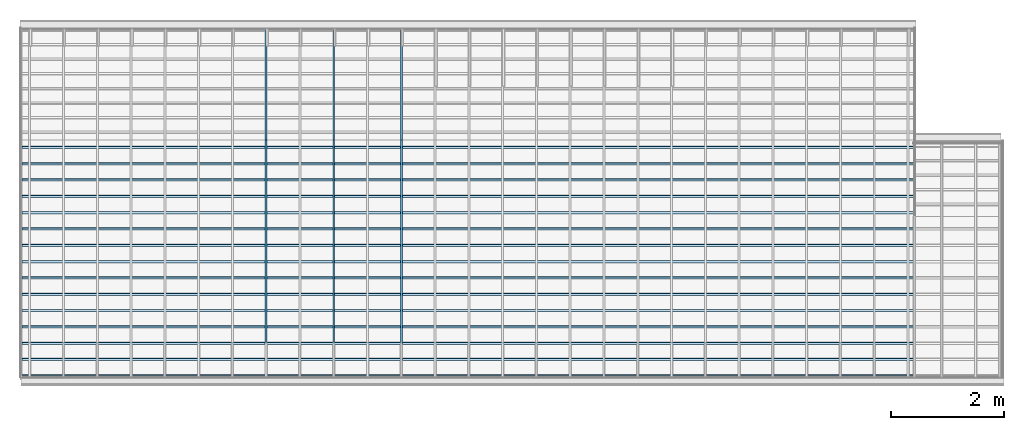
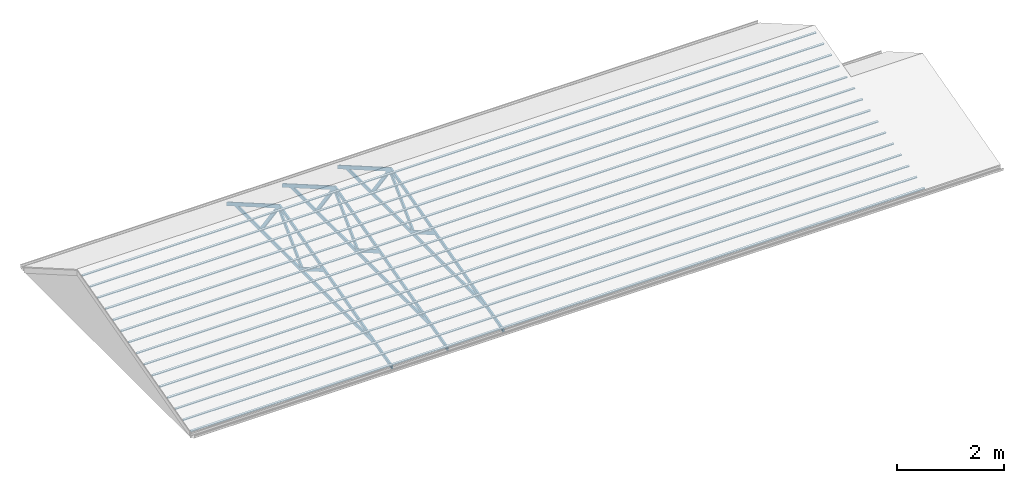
# One storey, part 4 of 12: 4 slabs.
"""IFC2X3 building model written with IfcOpenShell, lengths in millimetres."""

from ifc_helpers import new_model, entity, si_unit, converted_unit, money_unit, direction, frame, origin_with_axes, place, context, subcontext, project, spatial, faceted_brep, source, transform, mapped, material, type_object, element, save


model = new_model("IFC2X3")

# Units and contexts
model_context = context("Model", 3, precision=1e-05, world=origin_with_axes(), true_north=direction((0.0, 1.0)))
body_context = subcontext(model_context, "Body", "Model", "MODEL_VIEW")
ifc_project = project(units=[si_unit("LENGTHUNIT", "METRE", prefix="MILLI"), si_unit("AREAUNIT", "SQUARE_METRE"), si_unit("VOLUMEUNIT", "CUBIC_METRE"), converted_unit("PLANEANGLEUNIT", "DEGREE", entity("IfcPlaneAngleMeasure", 0.0174532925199), si_unit("PLANEANGLEUNIT", "RADIAN"), dimensions=[0, 0, 0, 0, 0, 0, 0]), si_unit("SOLIDANGLEUNIT", "STERADIAN"), money_unit("AUD"), si_unit("TIMEUNIT", "SECOND"), si_unit("MASSUNIT", "GRAM"), si_unit("THERMODYNAMICTEMPERATUREUNIT", "DEGREE_CELSIUS"), si_unit("LUMINOUSINTENSITYUNIT", "LUMEN")], contexts=[model_context])

# Site, building, storey
site_placement = place(None, origin_with_axes())
site = spatial("IfcSite", under=ifc_project, at=site_placement, Name="Lot 1. East Hills", CompositionType="ELEMENT")
building_placement = place(site_placement, origin_with_axes())
building = spatial("IfcBuilding", under=site, at=building_placement, Name="Proposed Units 7 & 8", CompositionType="ELEMENT")
storey_placement = place(building_placement, frame((0.0, 0.0, 8395.0), z_axis=(0.0, 0.0, 1.0), x_axis=(1.0, 0.0, 0.0)))
storey = spatial("IfcBuildingStorey", under=building, at=storey_placement, Name="Roof", CompositionType="ELEMENT", Elevation=8395.0)

# Slabs
ifc_material = material(Name="50 %")
slab_type_1 = type_object("IfcSlabType", Name="Roof Trust large", PredefinedType="NOTDEFINED")
slab_1_placement = place(storey_placement, frame((6755.0, -3.11548540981, 0.0), z_axis=(0.0, 0.0, 1.0), x_axis=(-1.0, 0.0, 0.0)))
element("IfcSlab", 1, at=slab_1_placement, inside=storey, type_object=slab_type_1, material=ifc_material, Name="TRUST_16 - Roof Trust large - object -", PredefinedType="ROOF", context=body_context, shape_type="Brep", body=[
    faceted_brep([(0.0, 600.020035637, -160.773638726), (0.0, 600.020035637, -160.673638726), (35.0, 600.020035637, -160.673638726), (35.0, 600.020035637, -160.773638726), (0.0, 599.923443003, -160.747757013), (0.0, 0.0966282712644, -0.0259204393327), (0.0, 3.56373446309e-05, -3.87262417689e-05), (0.0, -0.0999643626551, -3.87262417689e-05), (0.0, -5264.89996436, -3.87262399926e-05), (0.0, -5264.99996436, -3.87262399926e-05), (0.0, -5265.08656691, -0.050038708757), (0.0, -5564.91336181, -173.155038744), (0.0, -5564.99996436, -173.205038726), (0.0, -5564.99996436, -173.105038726), (0.0, -5564.99996436, -86.7025387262), (0.0, -5564.99996436, -86.6025387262), (0.0, -5564.91336181, -86.552538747), (0.0, -3606.74656692, 1043.99496129), (0.0, -3606.65996436, 1044.04496127), (0.0, -3606.56337176, 1044.01907945), (0.0, 599.923443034, -83.102056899), (0.0, 600.020035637, -83.1279387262), (0.0, 600.020035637, -83.2279387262), (0.0, -279.899964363, 74.9999612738), (0.0, -279.996556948, 75.0258431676), (0.0, -1937.88337178, 519.25507938), (0.0, -1937.97996436, 519.280961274), (0.0, -1938.06635104, 519.230589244), (0.0, -2699.82357768, 75.0503333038), (0.0, -2699.90996436, 74.9999612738), (0.0, -2699.80996436, 74.9999612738), (0.0, -279.999964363, 74.9999612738), (0.0, -2039.93996436, 546.601961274), (0.0, -2040.03655692, 546.627843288), (0.0, -3595.96337181, 963.539079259), (0.0, -3596.05996436, 963.564961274), (0.0, -3595.98895391, 963.494551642), (0.0, -2755.09097481, 129.711370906), (0.0, -2755.01996436, 129.640961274), (0.0, -2754.93357759, 129.691333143), (0.0, -2040.02635114, 546.551589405), (0.0, -2806.42996436, 74.9999612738), (0.0, -2806.50097476, 75.0703709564), (0.0, -3640.32895396, 901.844551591), (0.0, -3640.39996436, 901.914961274), (0.0, -3640.45835547, 901.833779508), (0.0, -4235.11157326, 75.0811430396), (0.0, -4235.16996436, 74.9999612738), (0.0, -4235.06996436, 74.9999612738), (0.0, -2806.52996436, 74.9999612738), (0.0, -3751.98996436, 873.534961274), (0.0, -3752.07656695, 873.48496135), (0.0, -5135.00936178, 75.0499611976), (0.0, -5135.09596436, 74.9999612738), (0.0, -5134.99596436, 74.9999612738), (0.0, -4326.44996436, 74.9999612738), (0.0, -4326.34996436, 74.9999612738), (0.0, -4326.29157308, 75.0811429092), (0.0, -3752.04835565, 873.453779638), (35.0, 600.020035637, -83.2279387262), (35.0, 600.020035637, -83.1279387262), (35.0, 599.923443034, -83.102056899), (35.0, -3606.56337176, 1044.01907945), (35.0, -3606.65996436, 1044.04496127), (35.0, -3606.74656692, 1043.99496129), (35.0, -5564.91336181, -86.552538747), (35.0, -5564.99996436, -86.6025387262), (35.0, -5564.99996436, -86.7025387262), (35.0, -5564.99996436, -173.105038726), (35.0, -5564.99996436, -173.205038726), (35.0, -5564.91336181, -173.155038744), (35.0, -5265.08656691, -0.050038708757), (35.0, -5264.99996436, -3.87262399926e-05), (35.0, -5264.89996436, -3.87262399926e-05), (35.0, -0.0999643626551, -3.87262417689e-05), (35.0, 3.56373446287e-05, -3.87262417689e-05), (35.0, 0.0966282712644, -0.0259204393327), (35.0, 599.923443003, -160.747757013), (35.0, -279.899964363, 74.9999612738), (35.0, -279.999964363, 74.9999612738), (35.0, -2699.80996436, 74.9999612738), (35.0, -2699.90996436, 74.9999612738), (35.0, -2699.82357768, 75.0503333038), (35.0, -1938.06635104, 519.230589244), (35.0, -1937.97996436, 519.280961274), (35.0, -1937.88337178, 519.25507938), (35.0, -279.996556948, 75.0258431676), (35.0, -2039.93996436, 546.601961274), (35.0, -2040.02635114, 546.551589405), (35.0, -2754.93357759, 129.691333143), (35.0, -2755.01996436, 129.640961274), (35.0, -2755.09097481, 129.711370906), (35.0, -3595.98895391, 963.494551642), (35.0, -3596.05996436, 963.564961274), (35.0, -3595.96337181, 963.539079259), (35.0, -2040.03655692, 546.627843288), (35.0, -2806.42996436, 74.9999612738), (35.0, -2806.52996436, 74.9999612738), (35.0, -4235.06996436, 74.9999612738), (35.0, -4235.16996436, 74.9999612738), (35.0, -4235.11157326, 75.0811430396), (35.0, -3640.45835547, 901.833779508), (35.0, -3640.39996436, 901.914961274), (35.0, -3640.32895396, 901.844551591), (35.0, -2806.50097476, 75.0703709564), (35.0, -3751.98996436, 873.534961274), (35.0, -3752.04835565, 873.453779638), (35.0, -4326.29157308, 75.0811429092), (35.0, -4326.34996436, 74.9999612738), (35.0, -4326.44996436, 74.9999612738), (35.0, -5134.99596436, 74.9999612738), (35.0, -5135.09596436, 74.9999612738), (35.0, -5135.00936178, 75.0499611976), (35.0, -3752.07656695, 873.48496135)], [[[0, 1, 2, 3]], [[0, 4, 5, 6, 7, 8, 9, 10, 11, 12, 13, 14, 15, 16, 17, 18, 19, 20, 21, 22, 1], [23, 24, 25, 26, 27, 28, 29, 30, 31], [32, 33, 34, 35, 36, 37, 38, 39, 40], [41, 42, 43, 44, 45, 46, 47, 48, 49], [50, 51, 52, 53, 54, 55, 56, 57, 58]], [[1, 22, 59, 2]], [[3, 2, 59, 60, 61, 62, 63, 64, 65, 66, 67, 68, 69, 70, 71, 72, 73, 74, 75, 76, 77], [78, 79, 80, 81, 82, 83, 84, 85, 86], [87, 88, 89, 90, 91, 92, 93, 94, 95], [96, 97, 98, 99, 100, 101, 102, 103, 104], [105, 106, 107, 108, 109, 110, 111, 112, 113]], [[4, 0, 3, 77]], [[5, 4, 77, 76]], [[6, 5, 76, 75]], [[7, 6, 75, 74]], [[8, 7, 74, 73]], [[9, 8, 73, 72]], [[10, 9, 72, 71]], [[11, 10, 71, 70]], [[12, 11, 70, 69]], [[13, 12, 69, 68]], [[14, 13, 68, 67]], [[15, 14, 67, 66]], [[16, 15, 66, 65]], [[17, 16, 65, 64]], [[18, 17, 64, 63]], [[19, 18, 63, 62]], [[20, 19, 62, 61]], [[21, 20, 61, 60]], [[22, 21, 60, 59]], [[24, 23, 78, 86]], [[25, 24, 86, 85]], [[26, 25, 85, 84]], [[27, 26, 84, 83]], [[28, 27, 83, 82]], [[29, 28, 82, 81]], [[30, 29, 81, 80]], [[31, 30, 80, 79]], [[23, 31, 79, 78]], [[33, 32, 87, 95]], [[34, 33, 95, 94]], [[35, 34, 94, 93]], [[36, 35, 93, 92]], [[37, 36, 92, 91]], [[38, 37, 91, 90]], [[39, 38, 90, 89]], [[40, 39, 89, 88]], [[32, 40, 88, 87]], [[42, 41, 96, 104]], [[43, 42, 104, 103]], [[44, 43, 103, 102]], [[45, 44, 102, 101]], [[46, 45, 101, 100]], [[47, 46, 100, 99]], [[48, 47, 99, 98]], [[49, 48, 98, 97]], [[41, 49, 97, 96]], [[51, 50, 105, 113]], [[52, 51, 113, 112]], [[53, 52, 112, 111]], [[54, 53, 111, 110]], [[55, 54, 110, 109]], [[56, 55, 109, 108]], [[57, 56, 108, 107]], [[58, 57, 107, 106]], [[50, 58, 106, 105]]]),
])
slab_2_placement = place(storey_placement, frame((5555.0, -3.11548540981, 0.0), z_axis=(0.0, 0.0, 1.0), x_axis=(-1.0, 0.0, 0.0)))
element("IfcSlab", 2, at=slab_2_placement, inside=storey, type_object=slab_type_1, material=ifc_material, Name="TRUST_18 - Roof Trust large - object -", PredefinedType="ROOF", context=body_context, shape_type="Brep", body=[
    faceted_brep([(0.0, 600.020035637, -160.773638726), (0.0, 600.020035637, -160.673638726), (35.0, 600.020035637, -160.673638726), (35.0, 600.020035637, -160.773638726), (0.0, 599.923443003, -160.747757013), (0.0, 0.0966282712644, -0.0259204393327), (0.0, 3.56373446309e-05, -3.87262417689e-05), (0.0, -0.0999643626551, -3.87262417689e-05), (0.0, -5264.89996436, -3.87262399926e-05), (0.0, -5264.99996436, -3.87262399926e-05), (0.0, -5265.08656691, -0.050038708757), (0.0, -5564.91336181, -173.155038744), (0.0, -5564.99996436, -173.205038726), (0.0, -5564.99996436, -173.105038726), (0.0, -5564.99996436, -86.7025387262), (0.0, -5564.99996436, -86.6025387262), (0.0, -5564.91336181, -86.552538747), (0.0, -3606.74656692, 1043.99496129), (0.0, -3606.65996436, 1044.04496127), (0.0, -3606.56337176, 1044.01907945), (0.0, 599.923443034, -83.102056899), (0.0, 600.020035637, -83.1279387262), (0.0, 600.020035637, -83.2279387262), (0.0, -279.899964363, 74.9999612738), (0.0, -279.996556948, 75.0258431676), (0.0, -1937.88337178, 519.25507938), (0.0, -1937.97996436, 519.280961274), (0.0, -1938.06635104, 519.230589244), (0.0, -2699.82357768, 75.0503333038), (0.0, -2699.90996436, 74.9999612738), (0.0, -2699.80996436, 74.9999612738), (0.0, -279.999964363, 74.9999612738), (0.0, -2039.93996436, 546.601961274), (0.0, -2040.03655692, 546.627843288), (0.0, -3595.96337181, 963.539079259), (0.0, -3596.05996436, 963.564961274), (0.0, -3595.98895391, 963.494551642), (0.0, -2755.09097481, 129.711370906), (0.0, -2755.01996436, 129.640961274), (0.0, -2754.93357759, 129.691333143), (0.0, -2040.02635114, 546.551589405), (0.0, -2806.42996436, 74.9999612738), (0.0, -2806.50097476, 75.0703709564), (0.0, -3640.32895396, 901.844551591), (0.0, -3640.39996436, 901.914961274), (0.0, -3640.45835547, 901.833779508), (0.0, -4235.11157326, 75.0811430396), (0.0, -4235.16996436, 74.9999612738), (0.0, -4235.06996436, 74.9999612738), (0.0, -2806.52996436, 74.9999612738), (0.0, -3751.98996436, 873.534961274), (0.0, -3752.07656695, 873.48496135), (0.0, -5135.00936178, 75.0499611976), (0.0, -5135.09596436, 74.9999612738), (0.0, -5134.99596436, 74.9999612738), (0.0, -4326.44996436, 74.9999612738), (0.0, -4326.34996436, 74.9999612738), (0.0, -4326.29157308, 75.0811429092), (0.0, -3752.04835565, 873.453779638), (35.0, 600.020035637, -83.2279387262), (35.0, 600.020035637, -83.1279387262), (35.0, 599.923443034, -83.102056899), (35.0, -3606.56337176, 1044.01907945), (35.0, -3606.65996436, 1044.04496127), (35.0, -3606.74656692, 1043.99496129), (35.0, -5564.91336181, -86.552538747), (35.0, -5564.99996436, -86.6025387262), (35.0, -5564.99996436, -86.7025387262), (35.0, -5564.99996436, -173.105038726), (35.0, -5564.99996436, -173.205038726), (35.0, -5564.91336181, -173.155038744), (35.0, -5265.08656691, -0.050038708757), (35.0, -5264.99996436, -3.87262399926e-05), (35.0, -5264.89996436, -3.87262399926e-05), (35.0, -0.0999643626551, -3.87262417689e-05), (35.0, 3.56373446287e-05, -3.87262417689e-05), (35.0, 0.0966282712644, -0.0259204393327), (35.0, 599.923443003, -160.747757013), (35.0, -279.899964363, 74.9999612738), (35.0, -279.999964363, 74.9999612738), (35.0, -2699.80996436, 74.9999612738), (35.0, -2699.90996436, 74.9999612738), (35.0, -2699.82357768, 75.0503333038), (35.0, -1938.06635104, 519.230589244), (35.0, -1937.97996436, 519.280961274), (35.0, -1937.88337178, 519.25507938), (35.0, -279.996556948, 75.0258431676), (35.0, -2039.93996436, 546.601961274), (35.0, -2040.02635114, 546.551589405), (35.0, -2754.93357759, 129.691333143), (35.0, -2755.01996436, 129.640961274), (35.0, -2755.09097481, 129.711370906), (35.0, -3595.98895391, 963.494551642), (35.0, -3596.05996436, 963.564961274), (35.0, -3595.96337181, 963.539079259), (35.0, -2040.03655692, 546.627843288), (35.0, -2806.42996436, 74.9999612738), (35.0, -2806.52996436, 74.9999612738), (35.0, -4235.06996436, 74.9999612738), (35.0, -4235.16996436, 74.9999612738), (35.0, -4235.11157326, 75.0811430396), (35.0, -3640.45835547, 901.833779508), (35.0, -3640.39996436, 901.914961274), (35.0, -3640.32895396, 901.844551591), (35.0, -2806.50097476, 75.0703709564), (35.0, -3751.98996436, 873.534961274), (35.0, -3752.04835565, 873.453779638), (35.0, -4326.29157308, 75.0811429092), (35.0, -4326.34996436, 74.9999612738), (35.0, -4326.44996436, 74.9999612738), (35.0, -5134.99596436, 74.9999612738), (35.0, -5135.09596436, 74.9999612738), (35.0, -5135.00936178, 75.0499611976), (35.0, -3752.07656695, 873.48496135)], [[[0, 1, 2, 3]], [[0, 4, 5, 6, 7, 8, 9, 10, 11, 12, 13, 14, 15, 16, 17, 18, 19, 20, 21, 22, 1], [23, 24, 25, 26, 27, 28, 29, 30, 31], [32, 33, 34, 35, 36, 37, 38, 39, 40], [41, 42, 43, 44, 45, 46, 47, 48, 49], [50, 51, 52, 53, 54, 55, 56, 57, 58]], [[1, 22, 59, 2]], [[3, 2, 59, 60, 61, 62, 63, 64, 65, 66, 67, 68, 69, 70, 71, 72, 73, 74, 75, 76, 77], [78, 79, 80, 81, 82, 83, 84, 85, 86], [87, 88, 89, 90, 91, 92, 93, 94, 95], [96, 97, 98, 99, 100, 101, 102, 103, 104], [105, 106, 107, 108, 109, 110, 111, 112, 113]], [[4, 0, 3, 77]], [[5, 4, 77, 76]], [[6, 5, 76, 75]], [[7, 6, 75, 74]], [[8, 7, 74, 73]], [[9, 8, 73, 72]], [[10, 9, 72, 71]], [[11, 10, 71, 70]], [[12, 11, 70, 69]], [[13, 12, 69, 68]], [[14, 13, 68, 67]], [[15, 14, 67, 66]], [[16, 15, 66, 65]], [[17, 16, 65, 64]], [[18, 17, 64, 63]], [[19, 18, 63, 62]], [[20, 19, 62, 61]], [[21, 20, 61, 60]], [[22, 21, 60, 59]], [[24, 23, 78, 86]], [[25, 24, 86, 85]], [[26, 25, 85, 84]], [[27, 26, 84, 83]], [[28, 27, 83, 82]], [[29, 28, 82, 81]], [[30, 29, 81, 80]], [[31, 30, 80, 79]], [[23, 31, 79, 78]], [[33, 32, 87, 95]], [[34, 33, 95, 94]], [[35, 34, 94, 93]], [[36, 35, 93, 92]], [[37, 36, 92, 91]], [[38, 37, 91, 90]], [[39, 38, 90, 89]], [[40, 39, 89, 88]], [[32, 40, 88, 87]], [[42, 41, 96, 104]], [[43, 42, 104, 103]], [[44, 43, 103, 102]], [[45, 44, 102, 101]], [[46, 45, 101, 100]], [[47, 46, 100, 99]], [[48, 47, 99, 98]], [[49, 48, 98, 97]], [[41, 49, 97, 96]], [[51, 50, 105, 113]], [[52, 51, 113, 112]], [[53, 52, 112, 111]], [[54, 53, 111, 110]], [[55, 54, 110, 109]], [[56, 55, 109, 108]], [[57, 56, 108, 107]], [[58, 57, 107, 106]], [[50, 58, 106, 105]]]),
])
slab_3_placement = place(storey_placement, frame((4355.0, -3.11548540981, 0.0), z_axis=(0.0, 0.0, 1.0), x_axis=(-1.0, 0.0, 0.0)))
element("IfcSlab", 3, at=slab_3_placement, inside=storey, type_object=slab_type_1, material=ifc_material, Name="TRUST_20 - Roof Trust large - object -", PredefinedType="ROOF", context=body_context, shape_type="Brep", body=[
    faceted_brep([(0.0, 600.020035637, -160.773638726), (0.0, 600.020035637, -160.673638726), (35.0, 600.020035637, -160.673638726), (35.0, 600.020035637, -160.773638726), (0.0, 599.923443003, -160.747757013), (0.0, 0.0966282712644, -0.0259204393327), (0.0, 3.56373446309e-05, -3.87262417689e-05), (0.0, -0.0999643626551, -3.87262417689e-05), (0.0, -5264.89996436, -3.87262399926e-05), (0.0, -5264.99996436, -3.87262399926e-05), (0.0, -5265.08656691, -0.050038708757), (0.0, -5564.91336181, -173.155038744), (0.0, -5564.99996436, -173.205038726), (0.0, -5564.99996436, -173.105038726), (0.0, -5564.99996436, -86.7025387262), (0.0, -5564.99996436, -86.6025387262), (0.0, -5564.91336181, -86.552538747), (0.0, -3606.74656692, 1043.99496129), (0.0, -3606.65996436, 1044.04496127), (0.0, -3606.56337176, 1044.01907945), (0.0, 599.923443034, -83.102056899), (0.0, 600.020035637, -83.1279387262), (0.0, 600.020035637, -83.2279387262), (0.0, -279.899964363, 74.9999612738), (0.0, -279.996556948, 75.0258431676), (0.0, -1937.88337178, 519.25507938), (0.0, -1937.97996436, 519.280961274), (0.0, -1938.06635104, 519.230589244), (0.0, -2699.82357768, 75.0503333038), (0.0, -2699.90996436, 74.9999612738), (0.0, -2699.80996436, 74.9999612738), (0.0, -279.999964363, 74.9999612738), (0.0, -2039.93996436, 546.601961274), (0.0, -2040.03655692, 546.627843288), (0.0, -3595.96337181, 963.539079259), (0.0, -3596.05996436, 963.564961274), (0.0, -3595.98895391, 963.494551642), (0.0, -2755.09097481, 129.711370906), (0.0, -2755.01996436, 129.640961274), (0.0, -2754.93357759, 129.691333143), (0.0, -2040.02635114, 546.551589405), (0.0, -2806.42996436, 74.9999612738), (0.0, -2806.50097476, 75.0703709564), (0.0, -3640.32895396, 901.844551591), (0.0, -3640.39996436, 901.914961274), (0.0, -3640.45835547, 901.833779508), (0.0, -4235.11157326, 75.0811430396), (0.0, -4235.16996436, 74.9999612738), (0.0, -4235.06996436, 74.9999612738), (0.0, -2806.52996436, 74.9999612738), (0.0, -3751.98996436, 873.534961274), (0.0, -3752.07656695, 873.48496135), (0.0, -5135.00936178, 75.0499611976), (0.0, -5135.09596436, 74.9999612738), (0.0, -5134.99596436, 74.9999612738), (0.0, -4326.44996436, 74.9999612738), (0.0, -4326.34996436, 74.9999612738), (0.0, -4326.29157308, 75.0811429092), (0.0, -3752.04835565, 873.453779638), (35.0, 600.020035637, -83.2279387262), (35.0, 600.020035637, -83.1279387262), (35.0, 599.923443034, -83.102056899), (35.0, -3606.56337176, 1044.01907945), (35.0, -3606.65996436, 1044.04496127), (35.0, -3606.74656692, 1043.99496129), (35.0, -5564.91336181, -86.552538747), (35.0, -5564.99996436, -86.6025387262), (35.0, -5564.99996436, -86.7025387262), (35.0, -5564.99996436, -173.105038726), (35.0, -5564.99996436, -173.205038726), (35.0, -5564.91336181, -173.155038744), (35.0, -5265.08656691, -0.050038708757), (35.0, -5264.99996436, -3.87262399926e-05), (35.0, -5264.89996436, -3.87262399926e-05), (35.0, -0.0999643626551, -3.87262417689e-05), (35.0, 3.56373446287e-05, -3.87262417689e-05), (35.0, 0.0966282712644, -0.0259204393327), (35.0, 599.923443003, -160.747757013), (35.0, -279.899964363, 74.9999612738), (35.0, -279.999964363, 74.9999612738), (35.0, -2699.80996436, 74.9999612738), (35.0, -2699.90996436, 74.9999612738), (35.0, -2699.82357768, 75.0503333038), (35.0, -1938.06635104, 519.230589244), (35.0, -1937.97996436, 519.280961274), (35.0, -1937.88337178, 519.25507938), (35.0, -279.996556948, 75.0258431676), (35.0, -2039.93996436, 546.601961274), (35.0, -2040.02635114, 546.551589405), (35.0, -2754.93357759, 129.691333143), (35.0, -2755.01996436, 129.640961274), (35.0, -2755.09097481, 129.711370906), (35.0, -3595.98895391, 963.494551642), (35.0, -3596.05996436, 963.564961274), (35.0, -3595.96337181, 963.539079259), (35.0, -2040.03655692, 546.627843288), (35.0, -2806.42996436, 74.9999612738), (35.0, -2806.52996436, 74.9999612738), (35.0, -4235.06996436, 74.9999612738), (35.0, -4235.16996436, 74.9999612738), (35.0, -4235.11157326, 75.0811430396), (35.0, -3640.45835547, 901.833779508), (35.0, -3640.39996436, 901.914961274), (35.0, -3640.32895396, 901.844551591), (35.0, -2806.50097476, 75.0703709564), (35.0, -3751.98996436, 873.534961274), (35.0, -3752.04835565, 873.453779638), (35.0, -4326.29157308, 75.0811429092), (35.0, -4326.34996436, 74.9999612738), (35.0, -4326.44996436, 74.9999612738), (35.0, -5134.99596436, 74.9999612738), (35.0, -5135.09596436, 74.9999612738), (35.0, -5135.00936178, 75.0499611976), (35.0, -3752.07656695, 873.48496135)], [[[0, 1, 2, 3]], [[0, 4, 5, 6, 7, 8, 9, 10, 11, 12, 13, 14, 15, 16, 17, 18, 19, 20, 21, 22, 1], [23, 24, 25, 26, 27, 28, 29, 30, 31], [32, 33, 34, 35, 36, 37, 38, 39, 40], [41, 42, 43, 44, 45, 46, 47, 48, 49], [50, 51, 52, 53, 54, 55, 56, 57, 58]], [[1, 22, 59, 2]], [[3, 2, 59, 60, 61, 62, 63, 64, 65, 66, 67, 68, 69, 70, 71, 72, 73, 74, 75, 76, 77], [78, 79, 80, 81, 82, 83, 84, 85, 86], [87, 88, 89, 90, 91, 92, 93, 94, 95], [96, 97, 98, 99, 100, 101, 102, 103, 104], [105, 106, 107, 108, 109, 110, 111, 112, 113]], [[4, 0, 3, 77]], [[5, 4, 77, 76]], [[6, 5, 76, 75]], [[7, 6, 75, 74]], [[8, 7, 74, 73]], [[9, 8, 73, 72]], [[10, 9, 72, 71]], [[11, 10, 71, 70]], [[12, 11, 70, 69]], [[13, 12, 69, 68]], [[14, 13, 68, 67]], [[15, 14, 67, 66]], [[16, 15, 66, 65]], [[17, 16, 65, 64]], [[18, 17, 64, 63]], [[19, 18, 63, 62]], [[20, 19, 62, 61]], [[21, 20, 61, 60]], [[22, 21, 60, 59]], [[24, 23, 78, 86]], [[25, 24, 86, 85]], [[26, 25, 85, 84]], [[27, 26, 84, 83]], [[28, 27, 83, 82]], [[29, 28, 82, 81]], [[30, 29, 81, 80]], [[31, 30, 80, 79]], [[23, 31, 79, 78]], [[33, 32, 87, 95]], [[34, 33, 95, 94]], [[35, 34, 94, 93]], [[36, 35, 93, 92]], [[37, 36, 92, 91]], [[38, 37, 91, 90]], [[39, 38, 90, 89]], [[40, 39, 89, 88]], [[32, 40, 88, 87]], [[42, 41, 96, 104]], [[43, 42, 104, 103]], [[44, 43, 103, 102]], [[45, 44, 102, 101]], [[46, 45, 101, 100]], [[47, 46, 100, 99]], [[48, 47, 99, 98]], [[49, 48, 98, 97]], [[41, 49, 97, 96]], [[51, 50, 105, 113]], [[52, 51, 113, 112]], [[53, 52, 112, 111]], [[54, 53, 111, 110]], [[55, 54, 110, 109]], [[56, 55, 109, 108]], [[57, 56, 108, 107]], [[58, 57, 107, 106]], [[50, 58, 106, 105]]]),
])
slab_type_2 = type_object("IfcSlabType", Name="Battens for Roof Tiles 12", PredefinedType="NOTDEFINED")
shared_shape = source(origin_with_axes(), body_context, "Body", "Brep", [
    faceted_brep([(0.0, 0.0, 0.0), (15830.0, 0.0, 0.0), (15830.0, -6.47047612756, 24.1481456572), (0.0, -6.47047612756, 24.1481456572), (0.0, 36.705181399, 9.8351237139), (15830.0, 36.705181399, 9.8351237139), (15830.0, 30.2347052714, 33.9832693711), (0.0, 30.2347052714, 33.9832693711)], [[[0, 1, 2, 3]], [[0, 4, 5, 1]], [[1, 5, 6, 2]], [[3, 2, 6, 7]], [[4, 0, 3, 7]], [[5, 4, 7, 6]]]),
    faceted_brep([(0.0, 289.777747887, 77.6457135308), (15830.0, 289.777747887, 77.6457135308), (15830.0, 283.307271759, 101.793859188), (0.0, 283.307271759, 101.793859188), (0.0, 326.482929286, 87.4808372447), (15830.0, 326.482929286, 87.4808372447), (15830.0, 320.012453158, 111.628982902), (0.0, 320.012453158, 111.628982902)], [[[0, 1, 2, 3]], [[0, 4, 5, 1]], [[1, 5, 6, 2]], [[3, 2, 6, 7]], [[4, 0, 3, 7]], [[5, 4, 7, 6]]]),
    faceted_brep([(0.0, 579.555495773, 155.291427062), (15830.0, 579.555495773, 155.291427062), (15830.0, 573.085019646, 179.439572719), (0.0, 573.085019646, 179.439572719), (0.0, 616.260677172, 165.126550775), (15830.0, 616.260677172, 165.126550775), (15830.0, 609.790201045, 189.274696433), (0.0, 609.790201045, 189.274696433)], [[[0, 1, 2, 3]], [[0, 4, 5, 1]], [[1, 5, 6, 2]], [[3, 2, 6, 7]], [[4, 0, 3, 7]], [[5, 4, 7, 6]]]),
    faceted_brep([(0.0, 869.33324366, 232.937140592), (15830.0, 869.33324366, 232.937140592), (15830.0, 862.862767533, 257.085286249), (0.0, 862.862767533, 257.085286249), (0.0, 906.038425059, 242.772264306), (15830.0, 906.038425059, 242.772264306), (15830.0, 899.567948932, 266.920409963), (0.0, 899.567948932, 266.920409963)], [[[0, 1, 2, 3]], [[0, 4, 5, 1]], [[1, 5, 6, 2]], [[3, 2, 6, 7]], [[4, 0, 3, 7]], [[5, 4, 7, 6]]]),
    faceted_brep([(0.0, 1159.11099155, 310.582854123), (15830.0, 1159.11099155, 310.582854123), (15830.0, 1152.64051542, 334.73099978), (0.0, 1152.64051542, 334.73099978), (0.0, 1195.81617295, 320.417977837), (15830.0, 1195.81617295, 320.417977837), (15830.0, 1189.34569682, 344.566123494), (0.0, 1189.34569682, 344.566123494)], [[[0, 1, 2, 3]], [[0, 4, 5, 1]], [[1, 5, 6, 2]], [[3, 2, 6, 7]], [[4, 0, 3, 7]], [[5, 4, 7, 6]]]),
    faceted_brep([(0.0, 1448.88873943, 388.228567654), (15830.0, 1448.88873943, 388.228567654), (15830.0, 1442.41826331, 412.376713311), (0.0, 1442.41826331, 412.376713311), (0.0, 1485.59392083, 398.063691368), (15830.0, 1485.59392083, 398.063691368), (15830.0, 1479.12344471, 422.211837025), (0.0, 1479.12344471, 422.211837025)], [[[0, 1, 2, 3]], [[0, 4, 5, 1]], [[1, 5, 6, 2]], [[3, 2, 6, 7]], [[4, 0, 3, 7]], [[5, 4, 7, 6]]]),
    faceted_brep([(0.0, 1738.66648732, 465.874281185), (15830.0, 1738.66648732, 465.874281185), (15830.0, 1732.19601119, 490.022426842), (0.0, 1732.19601119, 490.022426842), (0.0, 1775.37166872, 475.709404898), (15830.0, 1775.37166872, 475.709404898), (15830.0, 1768.90119259, 499.857550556), (0.0, 1768.90119259, 499.857550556)], [[[0, 1, 2, 3]], [[0, 4, 5, 1]], [[1, 5, 6, 2]], [[3, 2, 6, 7]], [[4, 0, 3, 7]], [[5, 4, 7, 6]]]),
    faceted_brep([(0.0, 2028.44423521, 543.519994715), (15830.0, 2028.44423521, 543.519994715), (15830.0, 2021.97375908, 567.668140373), (0.0, 2021.97375908, 567.668140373), (0.0, 2065.14941661, 553.355118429), (15830.0, 2065.14941661, 553.355118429), (15830.0, 2058.67894048, 577.503264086), (0.0, 2058.67894048, 577.503264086)], [[[0, 1, 2, 3]], [[0, 4, 5, 1]], [[1, 5, 6, 2]], [[3, 2, 6, 7]], [[4, 0, 3, 7]], [[5, 4, 7, 6]]]),
    faceted_brep([(0.0, 2318.22198309, 621.165708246), (15830.0, 2318.22198309, 621.165708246), (15830.0, 2311.75150697, 645.313853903), (0.0, 2311.75150697, 645.313853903), (0.0, 2354.92716449, 631.00083196), (15830.0, 2354.92716449, 631.00083196), (15830.0, 2348.45668837, 655.148977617), (0.0, 2348.45668837, 655.148977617)], [[[0, 1, 2, 3]], [[0, 4, 5, 1]], [[1, 5, 6, 2]], [[3, 2, 6, 7]], [[4, 0, 3, 7]], [[5, 4, 7, 6]]]),
    faceted_brep([(0.0, 2607.99973098, 698.811421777), (15830.0, 2607.99973098, 698.811421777), (15830.0, 2601.52925485, 722.959567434), (0.0, 2601.52925485, 722.959567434), (0.0, 2644.70491238, 708.646545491), (15830.0, 2644.70491238, 708.646545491), (15830.0, 2638.23443625, 732.794691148), (0.0, 2638.23443625, 732.794691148)], [[[0, 1, 2, 3]], [[0, 4, 5, 1]], [[1, 5, 6, 2]], [[3, 2, 6, 7]], [[4, 0, 3, 7]], [[5, 4, 7, 6]]]),
    faceted_brep([(0.0, 2897.77747887, 776.457135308), (15830.0, 2897.77747887, 776.457135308), (15830.0, 2891.30700274, 800.605280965), (0.0, 2891.30700274, 800.605280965), (0.0, 2934.48266027, 786.292259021), (15830.0, 2934.48266027, 786.292259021), (15830.0, 2928.01218414, 810.440404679), (0.0, 2928.01218414, 810.440404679)], [[[0, 1, 2, 3]], [[0, 4, 5, 1]], [[1, 5, 6, 2]], [[3, 2, 6, 7]], [[4, 0, 3, 7]], [[5, 4, 7, 6]]]),
    faceted_brep([(0.0, 3187.55522675, 854.102848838), (15830.0, 3187.55522675, 854.102848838), (15830.0, 3181.08475063, 878.250994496), (0.0, 3181.08475063, 878.250994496), (0.0, 3224.26040815, 863.937972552), (15830.0, 3224.26040815, 863.937972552), (15830.0, 3217.78993203, 888.086118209), (0.0, 3217.78993203, 888.086118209)], [[[0, 1, 2, 3]], [[0, 4, 5, 1]], [[1, 5, 6, 2]], [[3, 2, 6, 7]], [[4, 0, 3, 7]], [[5, 4, 7, 6]]]),
    faceted_brep([(0.0, 3477.33297464, 931.748562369), (15830.0, 3477.33297464, 931.748562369), (15830.0, 3470.86249851, 955.896708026), (0.0, 3470.86249851, 955.896708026), (0.0, 3514.03815604, 941.583686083), (15830.0, 3514.03815604, 941.583686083), (15830.0, 3507.56767991, 965.73183174), (0.0, 3507.56767991, 965.73183174)], [[[0, 1, 2, 3]], [[0, 4, 5, 1]], [[1, 5, 6, 2]], [[3, 2, 6, 7]], [[4, 0, 3, 7]], [[5, 4, 7, 6]]]),
    faceted_brep([(0.0, 3767.11072253, 1009.3942759), (15830.0, 3767.11072253, 1009.3942759), (15830.0, 3760.6402464, 1033.54242156), (0.0, 3760.6402464, 1033.54242156), (0.0, 3803.81590393, 1019.22939961), (15830.0, 3803.81590393, 1019.22939961), (15830.0, 3797.3454278, 1043.37754527), (0.0, 3797.3454278, 1043.37754527)], [[[0, 1, 2, 3]], [[0, 4, 5, 1]], [[1, 5, 6, 2]], [[3, 2, 6, 7]], [[4, 0, 3, 7]], [[5, 4, 7, 6]]]),
    faceted_brep([(0.0, 4056.88847041, 1087.03998943), (15830.0, 4056.88847041, 1087.03998943), (15830.0, 4050.41799429, 1111.18813509), (0.0, 4050.41799429, 1111.18813509), (0.0, 4093.59365181, 1096.87511314), (15830.0, 4093.59365181, 1096.87511314), (15830.0, 4087.12317569, 1121.0232588), (0.0, 4087.12317569, 1121.0232588)], [[[0, 1, 2, 3]], [[0, 4, 5, 1]], [[1, 5, 6, 2]], [[3, 2, 6, 7]], [[4, 0, 3, 7]], [[5, 4, 7, 6]]]),
])
slab_4_placement = place(storey_placement, frame((0.0, -602.015700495, -83.12796424), z_axis=(0.0, 0.0, 1.0), x_axis=(1.0, 0.0, 0.0)))
element("IfcSlab", 4, at=slab_4_placement, inside=storey, type_object=slab_type_2, material=ifc_material, Name="BATTEN_02 - Battens for Roof Tiles 12 - object -", PredefinedType="ROOF", context=body_context, shape_type="MappedRepresentation", body=[
    mapped(shared_shape, transform((0.0, 0.0, 0.0))),
])

save(model, "model.ifc")
